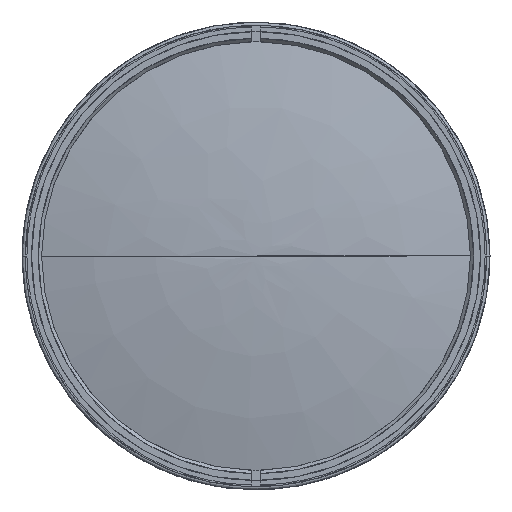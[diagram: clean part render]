
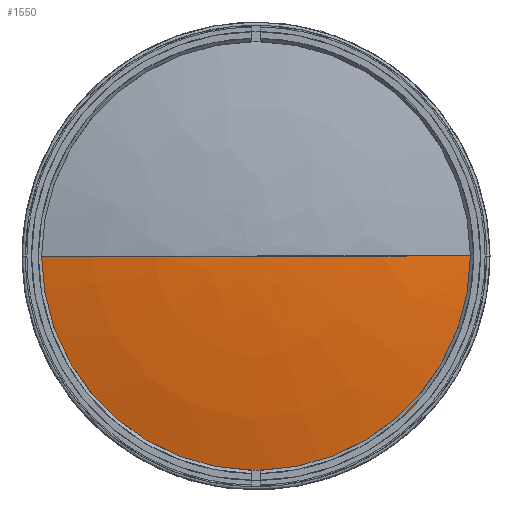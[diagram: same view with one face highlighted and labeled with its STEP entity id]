
A CAD part, left-side view. The second image highlights one B-rep face of the part: STEP entity #1550.
In plain terms, the highlighted face is a revolution surface.
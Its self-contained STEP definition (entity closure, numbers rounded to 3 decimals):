
#1550 = ADVANCED_FACE('',(#1551),#1569,.T.);
#1551 = FACE_BOUND('',#1552,.T.);
#1552 = EDGE_LOOP('',(#1553,#1583,#1602,#1621));
#1553 = ORIENTED_EDGE('',*,*,#1554,.F.);
#1554 = EDGE_CURVE('',#1555,#1557,#1559,.T.);
#1555 = VERTEX_POINT('',#1556);
#1556 = CARTESIAN_POINT('',(-278.,0.,0.
    ));
#1557 = VERTEX_POINT('',#1558);
#1558 = CARTESIAN_POINT('',(-270.092,68.5,
    0.));
#1559 = SURFACE_CURVE('',#1560,(#1568),.PCURVE_S1.);
#1560 = ( BOUNDED_CURVE() B_SPLINE_CURVE(6,(#1561,#1562,#1563,#1564,
#1565,#1566,#1567),.UNSPECIFIED.,.F.,.F.) B_SPLINE_CURVE_WITH_KNOTS((7,7
),(0.,1.),.PIECEWISE_BEZIER_KNOTS.) CURVE() 
GEOMETRIC_REPRESENTATION_ITEM() RATIONAL_B_SPLINE_CURVE((1.001,
    1.,1.,1.,1.,
1.,1.001)) REPRESENTATION_ITEM('') );
#1561 = CARTESIAN_POINT('',(-278.,0.,0.
    ));
#1562 = CARTESIAN_POINT('',(-278.,11.523,
    0.));
#1563 = CARTESIAN_POINT('',(-277.47,23.04,
    0.));
#1564 = CARTESIAN_POINT('',(-276.411,34.523,
    0.));
#1565 = CARTESIAN_POINT('',(-274.826,45.946,
    0.));
#1566 = CARTESIAN_POINT('',(-272.718,57.28,
    0.));
#1567 = CARTESIAN_POINT('',(-270.092,68.5,
    0.));
#1568 = PCURVE('',#1569,#1578);
#1569 = SURFACE_OF_REVOLUTION('',#1570,#1575);
#1570 = CIRCLE('',#1571,300.64);
#1571 = AXIS2_PLACEMENT_3D('',#1572,#1573,#1574);
#1572 = CARTESIAN_POINT('',(22.64,0.,0.));
#1573 = DIRECTION('',(-0.,0.,1.));
#1574 = DIRECTION('',(1.,0.,0.));
#1575 = AXIS1_PLACEMENT('',#1576,#1577);
#1576 = CARTESIAN_POINT('',(22.64,0.,0.));
#1577 = DIRECTION('',(1.,0.,0.));
#1578 = DEFINITIONAL_REPRESENTATION('',(#1579),#1582);
#1579 = B_SPLINE_CURVE_WITH_KNOTS('',1,(#1580,#1581),.UNSPECIFIED.,.F.,
  .F.,(2,2),(0.,1.),.PIECEWISE_BEZIER_KNOTS.);
#1580 = CARTESIAN_POINT('',(6.283,3.142));
#1581 = CARTESIAN_POINT('',(6.283,2.912));
#1582 = ( GEOMETRIC_REPRESENTATION_CONTEXT(2) 
PARAMETRIC_REPRESENTATION_CONTEXT() REPRESENTATION_CONTEXT('',''
  ) );
#1583 = ORIENTED_EDGE('',*,*,#1584,.F.);
#1584 = EDGE_CURVE('',#1585,#1555,#1587,.T.);
#1585 = VERTEX_POINT('',#1586);
#1586 = CARTESIAN_POINT('',(-278.,0.,0.
    ));
#1587 = SURFACE_CURVE('',#1588,(#1596),.PCURVE_S1.);
#1588 = ( BOUNDED_CURVE() B_SPLINE_CURVE(6,(#1589,#1590,#1591,#1592,
#1593,#1594,#1595),.UNSPECIFIED.,.F.,.F.) B_SPLINE_CURVE_WITH_KNOTS((7,7
),(0.,1.),.PIECEWISE_BEZIER_KNOTS.) CURVE() 
GEOMETRIC_REPRESENTATION_ITEM() RATIONAL_B_SPLINE_CURVE((1.133,
    1.036,0.992,0.976,0.992,
1.036,1.133)) REPRESENTATION_ITEM('') );
#1589 = CARTESIAN_POINT('',(-278.,0.,0.
    ));
#1590 = CARTESIAN_POINT('',(-278.,0.,0.
    ));
#1591 = CARTESIAN_POINT('',(-278.,0.,
    0.));
#1592 = CARTESIAN_POINT('',(-278.,0.,0.
    ));
#1593 = CARTESIAN_POINT('',(-278.,0.,0.
    ));
#1594 = CARTESIAN_POINT('',(-278.,0.,0.
    ));
#1595 = CARTESIAN_POINT('',(-278.,0.,0.
    ));
#1596 = PCURVE('',#1569,#1597);
#1597 = DEFINITIONAL_REPRESENTATION('',(#1598),#1601);
#1598 = B_SPLINE_CURVE_WITH_KNOTS('',1,(#1599,#1600),.UNSPECIFIED.,.F.,
  .F.,(2,2),(0.,1.),.PIECEWISE_BEZIER_KNOTS.);
#1599 = CARTESIAN_POINT('',(3.142,3.142));
#1600 = CARTESIAN_POINT('',(6.283,3.142));
#1601 = ( GEOMETRIC_REPRESENTATION_CONTEXT(2) 
PARAMETRIC_REPRESENTATION_CONTEXT() REPRESENTATION_CONTEXT('',''
  ) );
#1602 = ORIENTED_EDGE('',*,*,#1603,.F.);
#1603 = EDGE_CURVE('',#1604,#1585,#1606,.T.);
#1604 = VERTEX_POINT('',#1605);
#1605 = CARTESIAN_POINT('',(-270.092,-68.5,
    0.));
#1606 = SURFACE_CURVE('',#1607,(#1615),.PCURVE_S1.);
#1607 = ( BOUNDED_CURVE() B_SPLINE_CURVE(6,(#1608,#1609,#1610,#1611,
#1612,#1613,#1614),.UNSPECIFIED.,.F.,.F.) B_SPLINE_CURVE_WITH_KNOTS((7,7
),(0.,1.),.PIECEWISE_BEZIER_KNOTS.) CURVE() 
GEOMETRIC_REPRESENTATION_ITEM() RATIONAL_B_SPLINE_CURVE((1.001,
    1.,1.,1.,1.,
1.,1.001)) REPRESENTATION_ITEM('') );
#1608 = CARTESIAN_POINT('',(-270.092,-68.5,
    0.));
#1609 = CARTESIAN_POINT('',(-272.718,-57.28,
    0.));
#1610 = CARTESIAN_POINT('',(-274.826,-45.946,
    0.));
#1611 = CARTESIAN_POINT('',(-276.411,-34.523,
    0.));
#1612 = CARTESIAN_POINT('',(-277.47,-23.04,
    0.));
#1613 = CARTESIAN_POINT('',(-278.,-11.523,
    0.));
#1614 = CARTESIAN_POINT('',(-278.,0.,0.
    ));
#1615 = PCURVE('',#1569,#1616);
#1616 = DEFINITIONAL_REPRESENTATION('',(#1617),#1620);
#1617 = B_SPLINE_CURVE_WITH_KNOTS('',1,(#1618,#1619),.UNSPECIFIED.,.F.,
  .F.,(2,2),(0.,1.),.PIECEWISE_BEZIER_KNOTS.);
#1618 = CARTESIAN_POINT('',(3.142,2.912));
#1619 = CARTESIAN_POINT('',(3.142,3.142));
#1620 = ( GEOMETRIC_REPRESENTATION_CONTEXT(2) 
PARAMETRIC_REPRESENTATION_CONTEXT() REPRESENTATION_CONTEXT('',''
  ) );
#1621 = ORIENTED_EDGE('',*,*,#1622,.F.);
#1622 = EDGE_CURVE('',#1557,#1604,#1623,.T.);
#1623 = SURFACE_CURVE('',#1624,(#1635),.PCURVE_S1.);
#1624 = B_SPLINE_CURVE_WITH_KNOTS('',9,(#1625,#1626,#1627,#1628,#1629,
    #1630,#1631,#1632,#1633,#1634),.UNSPECIFIED.,.F.,.F.,(10,10),(0.,1.)
  ,.PIECEWISE_BEZIER_KNOTS.);
#1625 = CARTESIAN_POINT('',(-270.092,68.5,
    0.));
#1626 = CARTESIAN_POINT('',(-270.092,68.5,
    -23.911));
#1627 = CARTESIAN_POINT('',(-270.092,59.11,
    -47.822));
#1628 = CARTESIAN_POINT('',(-270.092,40.33,
    -67.518));
#1629 = CARTESIAN_POINT('',(-270.092,14.368,
    -78.791));
#1630 = CARTESIAN_POINT('',(-270.092,-14.368,
    -78.791));
#1631 = CARTESIAN_POINT('',(-270.092,-40.33,
    -67.518));
#1632 = CARTESIAN_POINT('',(-270.092,-59.11,
    -47.822));
#1633 = CARTESIAN_POINT('',(-270.092,-68.5,
    -23.911));
#1634 = CARTESIAN_POINT('',(-270.092,-68.5,
    0.));
#1635 = PCURVE('',#1569,#1636);
#1636 = DEFINITIONAL_REPRESENTATION('',(#1637),#1640);
#1637 = B_SPLINE_CURVE_WITH_KNOTS('',1,(#1638,#1639),.UNSPECIFIED.,.F.,
  .F.,(2,2),(0.,1.),.PIECEWISE_BEZIER_KNOTS.);
#1638 = CARTESIAN_POINT('',(6.283,2.912));
#1639 = CARTESIAN_POINT('',(3.142,2.912));
#1640 = ( GEOMETRIC_REPRESENTATION_CONTEXT(2) 
PARAMETRIC_REPRESENTATION_CONTEXT() REPRESENTATION_CONTEXT('',''
  ) );
